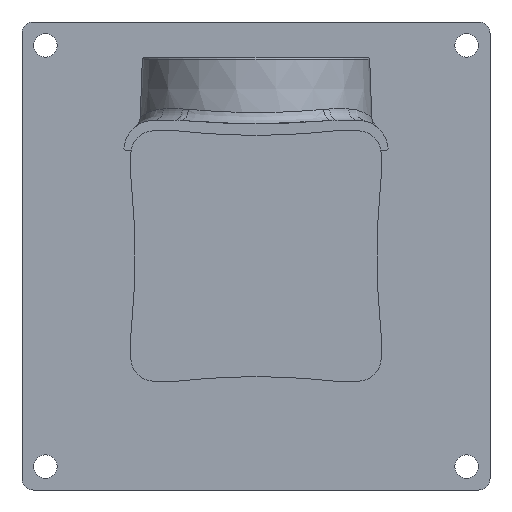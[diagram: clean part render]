
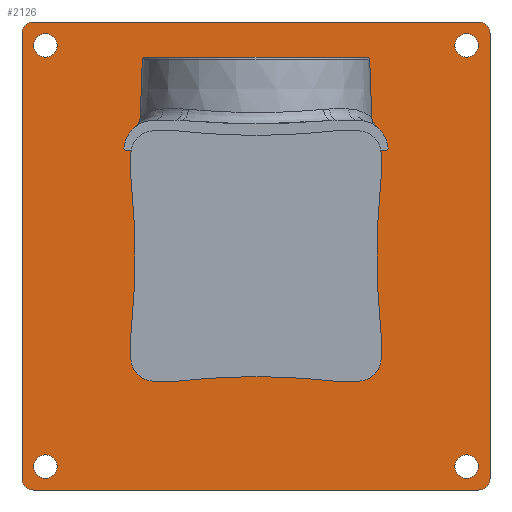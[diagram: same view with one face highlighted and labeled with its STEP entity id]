
A CAD part, front view. The second image highlights one B-rep face of the part: STEP entity #2126.
In plain terms, the highlighted planar face has unit normal (0, -1, 0) as drawn and (0, 0, -1) by its records, which use the part's own axes.
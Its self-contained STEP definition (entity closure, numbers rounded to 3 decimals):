
#1655=CARTESIAN_POINT('',(90.,-90.,0.));
#1656=DIRECTION('',(0.,0.,-1.));
#1657=DIRECTION('',(-1.,0.,0.));
#1658=AXIS2_PLACEMENT_3D('',#1655,#1656,#1657);
#1663=CARTESIAN_POINT('',(90.,-90.,0.));
#1664=DIRECTION('',(0.,0.,-1.));
#1665=DIRECTION('',(1.,0.,0.));
#1666=AXIS2_PLACEMENT_3D('',#1663,#1664,#1665);
#1671=CARTESIAN_POINT('',(90.,90.,0.));
#1672=DIRECTION('',(0.,0.,-1.));
#1673=DIRECTION('',(-1.,0.,0.));
#1674=AXIS2_PLACEMENT_3D('',#1671,#1672,#1673);
#1679=CARTESIAN_POINT('',(90.,90.,0.));
#1680=DIRECTION('',(0.,0.,-1.));
#1681=DIRECTION('',(1.,0.,0.));
#1682=AXIS2_PLACEMENT_3D('',#1679,#1680,#1681);
#1687=CARTESIAN_POINT('',(-90.,-90.,0.));
#1688=DIRECTION('',(0.,0.,-1.));
#1689=DIRECTION('',(-1.,0.,0.));
#1690=AXIS2_PLACEMENT_3D('',#1687,#1688,#1689);
#1695=CARTESIAN_POINT('',(-90.,-90.,0.));
#1696=DIRECTION('',(0.,0.,-1.));
#1697=DIRECTION('',(1.,0.,0.));
#1698=AXIS2_PLACEMENT_3D('',#1695,#1696,#1697);
#1703=CARTESIAN_POINT('',(-90.,90.,0.));
#1704=DIRECTION('',(0.,0.,-1.));
#1705=DIRECTION('',(-1.,0.,0.));
#1706=AXIS2_PLACEMENT_3D('',#1703,#1704,#1705);
#1711=CARTESIAN_POINT('',(-90.,90.,0.));
#1712=DIRECTION('',(0.,0.,-1.));
#1713=DIRECTION('',(1.,0.,0.));
#1714=AXIS2_PLACEMENT_3D('',#1711,#1712,#1713);
#1719=CARTESIAN_POINT('',(-95.,95.,0.));
#1720=DIRECTION('',(0.,0.,-1.));
#1721=DIRECTION('',(-1.,0.,0.));
#1722=AXIS2_PLACEMENT_3D('',#1719,#1720,#1721);
#1727=DIRECTION('',(0.,-1.,0.));
#1728=VECTOR('',#1727,190.);
#1729=CARTESIAN_POINT('',(-100.,95.,0.));
#1730=LINE('',#1729,#1728);
#1734=CARTESIAN_POINT('',(-95.,-95.,0.));
#1735=DIRECTION('',(0.,0.,-1.));
#1736=DIRECTION('',(0.,-1.,0.));
#1737=AXIS2_PLACEMENT_3D('',#1734,#1735,#1736);
#1742=DIRECTION('',(1.,0.,0.));
#1743=VECTOR('',#1742,190.);
#1744=CARTESIAN_POINT('',(-95.,-100.,0.));
#1745=LINE('',#1744,#1743);
#1749=CARTESIAN_POINT('',(95.,-95.,0.));
#1750=DIRECTION('',(0.,0.,-1.));
#1751=DIRECTION('',(1.,0.,0.));
#1752=AXIS2_PLACEMENT_3D('',#1749,#1750,#1751);
#1757=DIRECTION('',(0.,1.,0.));
#1758=VECTOR('',#1757,190.);
#1759=CARTESIAN_POINT('',(100.,-95.,0.));
#1760=LINE('',#1759,#1758);
#1764=CARTESIAN_POINT('',(95.,95.,0.));
#1765=DIRECTION('',(0.,0.,-1.));
#1766=DIRECTION('',(0.,1.,0.));
#1767=AXIS2_PLACEMENT_3D('',#1764,#1765,#1766);
#1772=DIRECTION('',(-1.,0.,0.));
#1773=VECTOR('',#1772,190.);
#1774=CARTESIAN_POINT('',(95.,100.,0.));
#1775=LINE('',#1774,#1773);
#2015=CARTESIAN_POINT('',(85.,-90.,0.));
#2016=CARTESIAN_POINT('',(95.,-90.,0.));
#2017=VERTEX_POINT('',#2015);
#2018=VERTEX_POINT('',#2016);
#2023=CARTESIAN_POINT('',(85.,90.,0.));
#2024=CARTESIAN_POINT('',(95.,90.,0.));
#2025=VERTEX_POINT('',#2023);
#2026=VERTEX_POINT('',#2024);
#2031=CARTESIAN_POINT('',(-95.,-90.,0.));
#2032=CARTESIAN_POINT('',(-85.,-90.,0.));
#2033=VERTEX_POINT('',#2031);
#2034=VERTEX_POINT('',#2032);
#2039=CARTESIAN_POINT('',(-95.,90.,0.));
#2040=CARTESIAN_POINT('',(-85.,90.,0.));
#2041=VERTEX_POINT('',#2039);
#2042=VERTEX_POINT('',#2040);
#2047=CARTESIAN_POINT('',(-100.,95.,0.));
#2048=CARTESIAN_POINT('',(-95.,100.,0.));
#2049=VERTEX_POINT('',#2047);
#2050=VERTEX_POINT('',#2048);
#2055=CARTESIAN_POINT('',(95.,100.,0.));
#2056=CARTESIAN_POINT('',(100.,95.,0.));
#2057=VERTEX_POINT('',#2055);
#2058=VERTEX_POINT('',#2056);
#2063=CARTESIAN_POINT('',(100.,-95.,0.));
#2064=CARTESIAN_POINT('',(95.,-100.,0.));
#2065=VERTEX_POINT('',#2063);
#2066=VERTEX_POINT('',#2064);
#2071=CARTESIAN_POINT('',(-95.,-100.,0.));
#2072=CARTESIAN_POINT('',(-100.,-95.,0.));
#2073=VERTEX_POINT('',#2071);
#2074=VERTEX_POINT('',#2072);
#2079=CARTESIAN_POINT('',(0.,0.,0.));
#2080=DIRECTION('',(0.,0.,1.));
#2081=DIRECTION('',(1.,0.,0.));
#2082=AXIS2_PLACEMENT_3D('',#2079,#2080,#2081);
#2083=PLANE('',#2082);
#2085=ORIENTED_EDGE('',*,*,#2084,.F.);
#2087=ORIENTED_EDGE('',*,*,#2086,.T.);
#2089=ORIENTED_EDGE('',*,*,#2088,.F.);
#2091=ORIENTED_EDGE('',*,*,#2090,.T.);
#2093=ORIENTED_EDGE('',*,*,#2092,.F.);
#2095=ORIENTED_EDGE('',*,*,#2094,.T.);
#2097=ORIENTED_EDGE('',*,*,#2096,.F.);
#2099=ORIENTED_EDGE('',*,*,#2098,.T.);
#2100=EDGE_LOOP('',(#2085,#2087,#2089,#2091,#2093,#2095,#2097,#2099));
#2101=FACE_OUTER_BOUND('',#2100,.F.);
#2103=ORIENTED_EDGE('',*,*,#2102,.T.);
#2105=ORIENTED_EDGE('',*,*,#2104,.T.);
#2106=EDGE_LOOP('',(#2103,#2105));
#2107=FACE_BOUND('',#2106,.F.);
#2109=ORIENTED_EDGE('',*,*,#2108,.T.);
#2111=ORIENTED_EDGE('',*,*,#2110,.T.);
#2112=EDGE_LOOP('',(#2109,#2111));
#2113=FACE_BOUND('',#2112,.F.);
#2115=ORIENTED_EDGE('',*,*,#2114,.T.);
#2117=ORIENTED_EDGE('',*,*,#2116,.T.);
#2118=EDGE_LOOP('',(#2115,#2117));
#2119=FACE_BOUND('',#2118,.F.);
#2121=ORIENTED_EDGE('',*,*,#2120,.T.);
#2123=ORIENTED_EDGE('',*,*,#2122,.T.);
#2124=EDGE_LOOP('',(#2121,#2123));
#2125=FACE_BOUND('',#2124,.F.);
#1659=CIRCLE('',#1658,5.);
#1667=CIRCLE('',#1666,5.);
#1675=CIRCLE('',#1674,5.);
#1683=CIRCLE('',#1682,5.);
#1691=CIRCLE('',#1690,5.);
#1699=CIRCLE('',#1698,5.);
#1707=CIRCLE('',#1706,5.);
#1715=CIRCLE('',#1714,5.);
#1723=CIRCLE('',#1722,5.);
#1738=CIRCLE('',#1737,5.);
#1753=CIRCLE('',#1752,5.);
#1768=CIRCLE('',#1767,5.);
#2084=EDGE_CURVE('',#2049,#2050,#1723,.T.);
#2086=EDGE_CURVE('',#2049,#2074,#1730,.T.);
#2088=EDGE_CURVE('',#2073,#2074,#1738,.T.);
#2090=EDGE_CURVE('',#2073,#2066,#1745,.T.);
#2092=EDGE_CURVE('',#2065,#2066,#1753,.T.);
#2094=EDGE_CURVE('',#2065,#2058,#1760,.T.);
#2096=EDGE_CURVE('',#2057,#2058,#1768,.T.);
#2098=EDGE_CURVE('',#2057,#2050,#1775,.T.);
#2102=EDGE_CURVE('',#2025,#2026,#1675,.T.);
#2104=EDGE_CURVE('',#2026,#2025,#1683,.T.);
#2108=EDGE_CURVE('',#2033,#2034,#1691,.T.);
#2110=EDGE_CURVE('',#2034,#2033,#1699,.T.);
#2114=EDGE_CURVE('',#2041,#2042,#1707,.T.);
#2116=EDGE_CURVE('',#2042,#2041,#1715,.T.);
#2120=EDGE_CURVE('',#2017,#2018,#1659,.T.);
#2122=EDGE_CURVE('',#2018,#2017,#1667,.T.);
#2126=ADVANCED_FACE('',(#2101,#2107,#2113,#2119,#2125),#2083,.F.);
